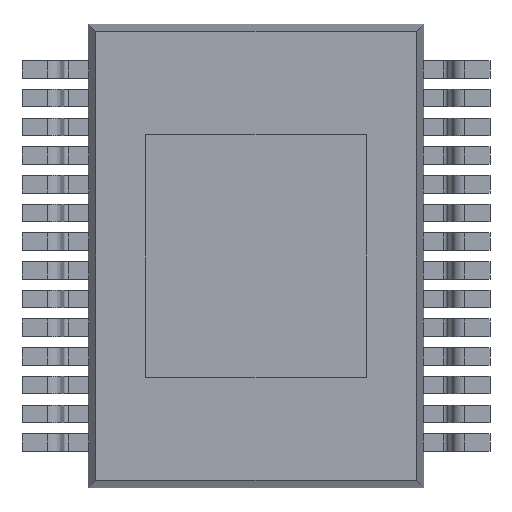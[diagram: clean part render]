
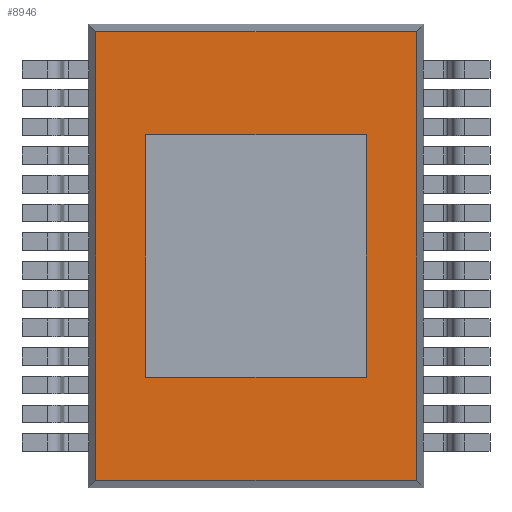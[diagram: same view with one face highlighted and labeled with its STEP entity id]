
A CAD part, front view. The second image highlights one B-rep face of the part: STEP entity #8946.
In plain terms, the highlighted planar face has unit normal (0, -1, 0).
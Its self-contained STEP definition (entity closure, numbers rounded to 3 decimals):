
#1204 = EDGE_CURVE ( 'NONE', #17470, #17455, #3504, .T. ) ;
#1212 = EDGE_CURVE ( 'NONE', #17451, #17447, #3488, .T. ) ;
#2180 = AXIS2_PLACEMENT_3D ( 'NONE', #11482, #11485, #11478 ) ;
#2562 = CARTESIAN_POINT ( 'NONE',  ( -3.628, 0.05, -5.078 ) ) ;
#2569 = CARTESIAN_POINT ( 'NONE',  ( 3.628, 0.05, 5.078 ) ) ;
#2571 = CARTESIAN_POINT ( 'NONE',  ( -3.628, 0.05, 5.078 ) ) ;
#2584 = CARTESIAN_POINT ( 'NONE',  ( 3.628, 0.05, -5.078 ) ) ;
#2629 = CARTESIAN_POINT ( 'NONE',  ( 2.5, 0.05, -2.75 ) ) ;
#2634 = CARTESIAN_POINT ( 'NONE',  ( -2.5, 0.05, 2.75 ) ) ;
#2637 = CARTESIAN_POINT ( 'NONE',  ( 2.5, 0.05, 2.75 ) ) ;
#2640 = CARTESIAN_POINT ( 'NONE',  ( -2.5, 0.05, -2.75 ) ) ;
#3485 = VECTOR ( 'NONE', #5940, 1000. ) ;
#3488 = LINE ( 'NONE', #5946, #3485 ) ;
#3501 = VECTOR ( 'NONE', #5995, 1000. ) ;
#3504 = LINE ( 'NONE', #5988, #3501 ) ;
#4556 = CARTESIAN_POINT ( 'NONE',  ( 2.5, 0.05, 0. ) ) ;
#4560 = CARTESIAN_POINT ( 'NONE',  ( 3.8, 0.05, 5.078 ) ) ;
#4561 = DIRECTION ( 'NONE',  ( -1., 0., 0. ) ) ;
#4562 = CARTESIAN_POINT ( 'NONE',  ( 0., 0.05, 2.75 ) ) ;
#4564 = DIRECTION ( 'NONE',  ( 1., 0., 0. ) ) ;
#4565 = DIRECTION ( 'NONE',  ( 0., 0., -1. ) ) ;
#4566 = CARTESIAN_POINT ( 'NONE',  ( 0., 0.05, -2.75 ) ) ;
#4567 = DIRECTION ( 'NONE',  ( -1., 0., 0. ) ) ;
#4568 = CARTESIAN_POINT ( 'NONE',  ( -2.5, 0.05, 0. ) ) ;
#4569 = DIRECTION ( 'NONE',  ( 0., 0., 1. ) ) ;
#4865 = CARTESIAN_POINT ( 'NONE',  ( 3.8, 0.05, -5.078 ) ) ;
#4866 = DIRECTION ( 'NONE',  ( 1., 0., 0. ) ) ;
#5940 = DIRECTION ( 'NONE',  ( 0., 0., -1. ) ) ;
#5946 = CARTESIAN_POINT ( 'NONE',  ( -3.628, 0.05, 5.25 ) ) ;
#5988 = CARTESIAN_POINT ( 'NONE',  ( 3.628, 0.05, 5.25 ) ) ;
#5995 = DIRECTION ( 'NONE',  ( 0., 0., 1. ) ) ;
#8946 = ADVANCED_FACE ( 'NONE', ( #17759, #17756 ), #11480, .F. ) ;
#10184 = VECTOR ( 'NONE', #4569, 1000. ) ;
#10186 = VECTOR ( 'NONE', #4567, 1000. ) ;
#10187 = LINE ( 'NONE', #4568, #10184 ) ;
#10188 = VECTOR ( 'NONE', #4565, 1000. ) ;
#10189 = LINE ( 'NONE', #4566, #10186 ) ;
#10190 = VECTOR ( 'NONE', #4564, 1000. ) ;
#10192 = VECTOR ( 'NONE', #4561, 1000. ) ;
#10193 = LINE ( 'NONE', #4562, #10190 ) ;
#10212 = LINE ( 'NONE', #4560, #10192 ) ;
#10233 = LINE ( 'NONE', #4556, #10188 ) ;
#10433 = VECTOR ( 'NONE', #4866, 1000. ) ;
#10445 = LINE ( 'NONE', #4865, #10433 ) ;
#11478 = DIRECTION ( 'NONE',  ( 0., 0., 1. ) ) ;
#11480 = PLANE ( 'NONE',  #2180 ) ;
#11482 = CARTESIAN_POINT ( 'NONE',  ( 0., 0.05, 0. ) ) ;
#11485 = DIRECTION ( 'NONE',  ( 0., 1., 0. ) ) ;
#15008 = EDGE_CURVE ( 'NONE', #17455, #17451, #10212, .T. ) ;
#15009 = EDGE_CURVE ( 'NONE', #17522, #17527, #10193, .T. ) ;
#15010 = EDGE_CURVE ( 'NONE', #17527, #17519, #10233, .T. ) ;
#15011 = EDGE_CURVE ( 'NONE', #17519, #17525, #10189, .T. ) ;
#15012 = EDGE_CURVE ( 'NONE', #17525, #17522, #10187, .T. ) ;
#15147 = EDGE_CURVE ( 'NONE', #17447, #17470, #10445, .T. ) ;
#15903 = EDGE_LOOP ( 'NONE', ( #17930, #17929, #17928, #17927 ) ) ;
#15905 = EDGE_LOOP ( 'NONE', ( #17938, #17936, #17934, #17932 ) ) ;
#17447 = VERTEX_POINT ( 'NONE', #2562 ) ;
#17451 = VERTEX_POINT ( 'NONE', #2571 ) ;
#17455 = VERTEX_POINT ( 'NONE', #2569 ) ;
#17470 = VERTEX_POINT ( 'NONE', #2584 ) ;
#17519 = VERTEX_POINT ( 'NONE', #2629 ) ;
#17522 = VERTEX_POINT ( 'NONE', #2634 ) ;
#17525 = VERTEX_POINT ( 'NONE', #2640 ) ;
#17527 = VERTEX_POINT ( 'NONE', #2637 ) ;
#17756 = FACE_OUTER_BOUND ( 'NONE', #15903, .T. ) ;
#17759 = FACE_BOUND ( 'NONE', #15905, .T. ) ;
#17927 = ORIENTED_EDGE ( 'NONE', *, *, #15008, .T. ) ;
#17928 = ORIENTED_EDGE ( 'NONE', *, *, #1204, .T. ) ;
#17929 = ORIENTED_EDGE ( 'NONE', *, *, #15147, .T. ) ;
#17930 = ORIENTED_EDGE ( 'NONE', *, *, #1212, .T. ) ;
#17932 = ORIENTED_EDGE ( 'NONE', *, *, #15012, .T. ) ;
#17934 = ORIENTED_EDGE ( 'NONE', *, *, #15011, .T. ) ;
#17936 = ORIENTED_EDGE ( 'NONE', *, *, #15010, .T. ) ;
#17938 = ORIENTED_EDGE ( 'NONE', *, *, #15009, .T. ) ;
